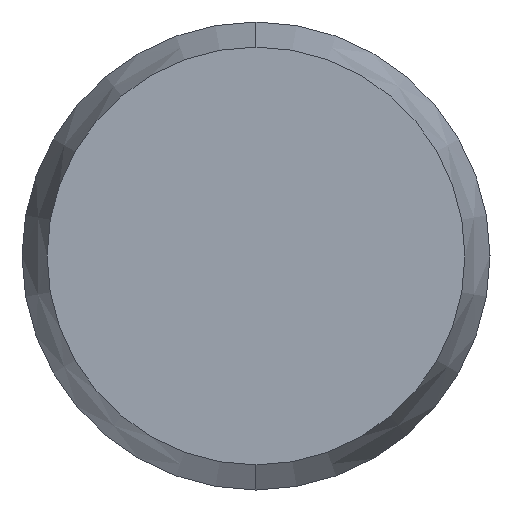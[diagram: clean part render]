
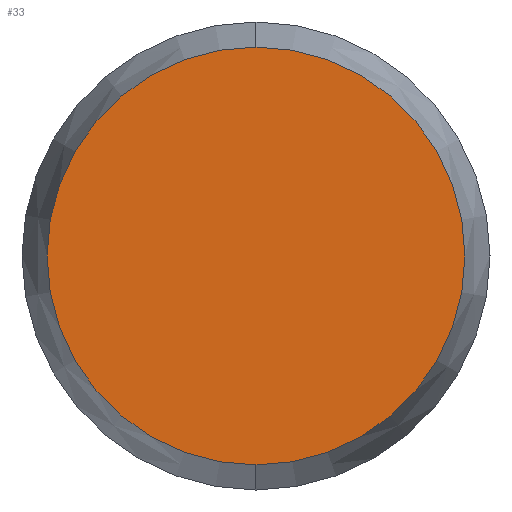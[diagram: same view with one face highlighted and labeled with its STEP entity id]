
A CAD part, left-side view. The second image highlights one B-rep face of the part: STEP entity #33.
In plain terms, the highlighted planar face has unit normal (-1, 0, 0).
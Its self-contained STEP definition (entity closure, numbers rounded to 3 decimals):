
#8 = EDGE_CURVE ( 'NONE', #25, #9, #121, .T. ) ;
#9 = VERTEX_POINT ( 'NONE', #116 ) ;
#25 = VERTEX_POINT ( 'NONE', #54 ) ;
#26 = ORIENTED_EDGE ( 'NONE', *, *, #8, .F. ) ;
#27 = EDGE_LOOP ( 'NONE', ( #26, #134 ) ) ;
#30 = EDGE_CURVE ( 'NONE', #9, #25, #49, .T. ) ;
#33 = ADVANCED_FACE ( 'NONE', ( #50 ), #44, .F. ) ;
#39 = DIRECTION ( 'NONE',  ( 0., 0., -1. ) ) ;
#40 = DIRECTION ( 'NONE',  ( 1., 0., 0. ) ) ;
#41 = CARTESIAN_POINT ( 'NONE',  ( -2.5, 0., 0. ) ) ;
#42 = AXIS2_PLACEMENT_3D ( 'NONE', #41, #40, #39 ) ;
#44 = PLANE ( 'NONE',  #42 ) ;
#45 = DIRECTION ( 'NONE',  ( 0., 0., -1. ) ) ;
#46 = DIRECTION ( 'NONE',  ( 1., 0., 0. ) ) ;
#47 = CARTESIAN_POINT ( 'NONE',  ( -2.5, 0., 0. ) ) ;
#48 = AXIS2_PLACEMENT_3D ( 'NONE', #47, #46, #45 ) ;
#49 = CIRCLE ( 'NONE', #48, 0.67 ) ;
#50 = FACE_OUTER_BOUND ( 'NONE', #27, .T. ) ;
#54 = CARTESIAN_POINT ( 'NONE',  ( -2.5, 0., 0.67 ) ) ;
#116 = CARTESIAN_POINT ( 'NONE',  ( -2.5, 0., -0.67 ) ) ;
#117 = DIRECTION ( 'NONE',  ( 0., 0., -1. ) ) ;
#118 = DIRECTION ( 'NONE',  ( 1., 0., 0. ) ) ;
#119 = CARTESIAN_POINT ( 'NONE',  ( -2.5, 0., 0. ) ) ;
#120 = AXIS2_PLACEMENT_3D ( 'NONE', #119, #118, #117 ) ;
#121 = CIRCLE ( 'NONE', #120, 0.67 ) ;
#134 = ORIENTED_EDGE ( 'NONE', *, *, #30, .F. ) ;
